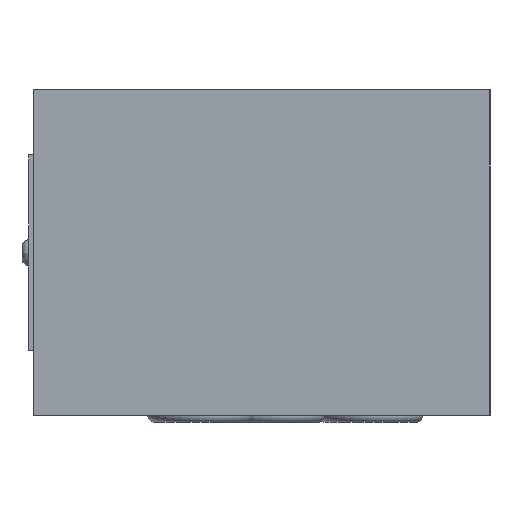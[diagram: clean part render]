
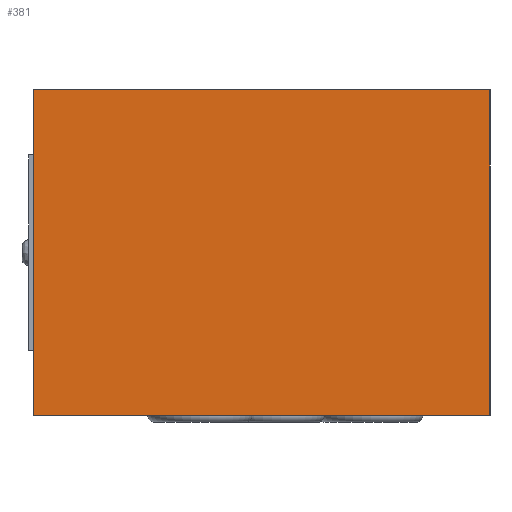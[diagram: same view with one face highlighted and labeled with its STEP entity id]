
A CAD part, left-side view. The second image highlights one B-rep face of the part: STEP entity #381.
In plain terms, the highlighted planar face has unit normal (-1, 0, 0).
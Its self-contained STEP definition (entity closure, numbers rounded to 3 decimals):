
#56=LINE('',#2112,#94);
#57=LINE('',#2114,#95);
#58=LINE('',#2116,#96);
#59=LINE('',#2118,#97);
#94=VECTOR('',#1634,1.);
#95=VECTOR('',#1637,1.);
#96=VECTOR('',#1638,1.);
#97=VECTOR('',#1639,1.);
#269=FACE_OUTER_BOUND('',#656,.T.);
#295=PLANE('',#1373);
#381=ADVANCED_FACE('',(#269),#295,.T.);
#656=EDGE_LOOP('',(#870,#871,#872,#873));
#870=ORIENTED_EDGE('',*,*,#1168,.F.);
#871=ORIENTED_EDGE('',*,*,#1167,.F.);
#872=ORIENTED_EDGE('',*,*,#1169,.T.);
#873=ORIENTED_EDGE('',*,*,#1170,.T.);
#1051=VERTEX_POINT('',#2109);
#1052=VERTEX_POINT('',#2111);
#1053=VERTEX_POINT('',#2115);
#1054=VERTEX_POINT('',#2117);
#1167=EDGE_CURVE('',#1052,#1051,#56,.T.);
#1168=EDGE_CURVE('',#1051,#1053,#57,.T.);
#1169=EDGE_CURVE('',#1052,#1054,#58,.T.);
#1170=EDGE_CURVE('',#1054,#1053,#59,.T.);
#1373=AXIS2_PLACEMENT_3D('',#2119,#1640,#1641);
#1634=DIRECTION('',(0.,0.,-1.));
#1637=DIRECTION('',(0.,1.,0.));
#1638=DIRECTION('',(0.,1.,0.));
#1639=DIRECTION('',(0.,0.,-1.));
#1640=DIRECTION('',(-1.,0.,0.));
#1641=DIRECTION('',(0.,0.,-1.));
#2109=CARTESIAN_POINT('',(76.575,128.959,0.));
#2111=CARTESIAN_POINT('',(76.575,128.959,50.));
#2112=CARTESIAN_POINT('',(76.575,128.959,50.));
#2114=CARTESIAN_POINT('',(76.575,163.959,0.));
#2115=CARTESIAN_POINT('',(76.575,198.959,0.));
#2116=CARTESIAN_POINT('',(76.575,128.959,50.));
#2117=CARTESIAN_POINT('',(76.575,198.959,50.));
#2118=CARTESIAN_POINT('',(76.575,198.959,50.));
#2119=CARTESIAN_POINT('',(76.575,163.959,50.));
